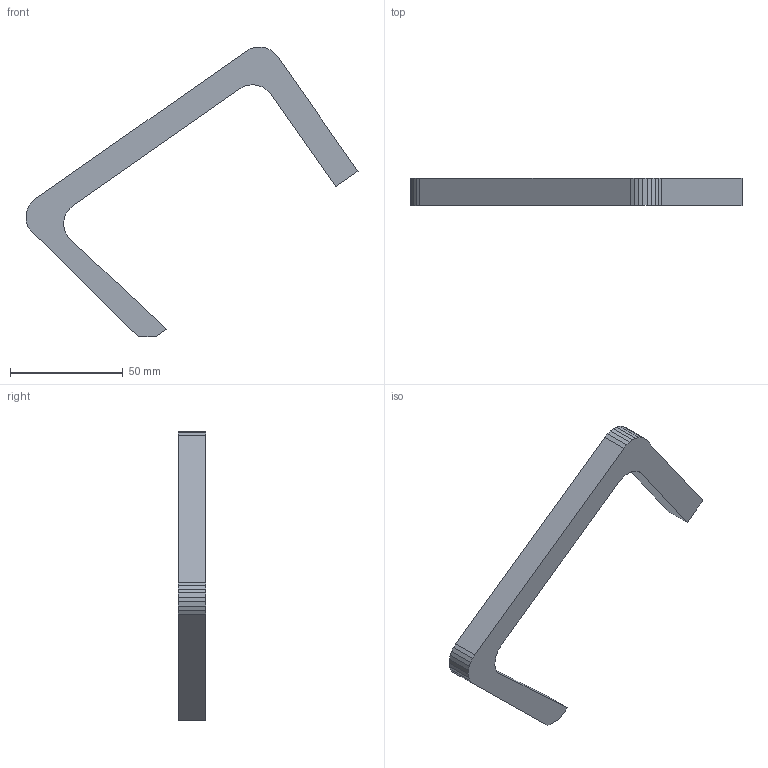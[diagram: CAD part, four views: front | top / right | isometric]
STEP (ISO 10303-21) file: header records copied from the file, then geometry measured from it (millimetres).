
FILE_DESCRIPTION(('Open CASCADE Model'),'2;1');
FILE_NAME('Open CASCADE Shape Model','2026-10-20T13:19:35',('Author'),( 'Open CASCADE'),'Open CASCADE STEP processor 7.9','Open CASCADE 7.9' ,'Unknown');
FILE_SCHEMA(('AUTOMOTIVE_DESIGN { 1 0 10303 214 1 1 1 1 }'));
Length unit declared in the file: millimetre
Products named in the file (1): Open CASCADE STEP translator 7.9 69
Bounding box: 147.13 x 12 x 128.47 mm (x, y, z)
Volume: 36469.3 mm3; surface area: 12455.8 mm2
Topology: 1 solids, 1 shells, 43 faces, 123 edges, 82 vertices
Faces by surface type: plane 43
Entity records: 2986 total; most frequent: CARTESIAN_POINT 495, DIRECTION 457, LINE 369, VECTOR 369, ORIENTED_EDGE 246, PCURVE 246, DEFINITIONAL_REPRESENTATION 246, EDGE_CURVE 123
